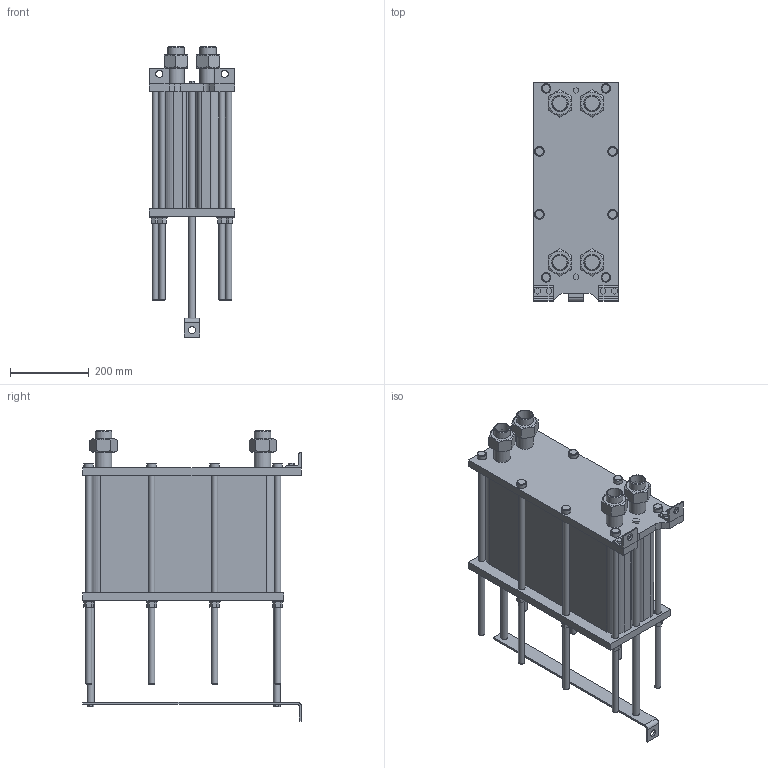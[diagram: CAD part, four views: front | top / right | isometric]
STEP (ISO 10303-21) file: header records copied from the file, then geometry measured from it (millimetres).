
FILE_DESCRIPTION(/* description */ (''),/* implementation_level */ '2;1');
FILE_NAME(/* name */ 'C:\Users\zhuro\Desktop\ENCO\TO\ЭН-004\ЭН-0,5-004-96-1.stp',/* time_stamp */ '2022-06-06T10:51:56+03:00',/* author */ ('zhuro'),/* organization */ (''),/* preprocessor_version */ 'ST-DEVELOPER v18.1',/* originating_system */ 'Autodesk Inventor 2022',/* authorisation */ '');
FILE_SCHEMA (('AUTOMOTIVE_DESIGN { 1 0 10303 214 3 1 1 }'));
Length unit declared in the file: millimetre
Products named in the file (1): ЭН-0,5-004-96-1
Bounding box: 216 x 555 x 737.8 mm (x, y, z)
Volume: 28059351.9 mm3; surface area: 1603079.6 mm2
Topology: 40 solids, 40 shells, 403 faces, 865 edges, 574 vertices
Faces by surface type: plane 272, cylinder 103, cone 28
Full cylindrical faces by diameter (mm): 10 x4, 16 x16, 18 x29, 20 x2, 24 x8, 28 x8, 36.3 x5, 42.3 x9
Entity records: 11137 total; most frequent: CARTESIAN_POINT 1939, DIRECTION 1879, ORIENTED_EDGE 1730, EDGE_CURVE 865, AXIS2_PLACEMENT_3D 658, VERTEX_POINT 574, LINE 563, VECTOR 563
